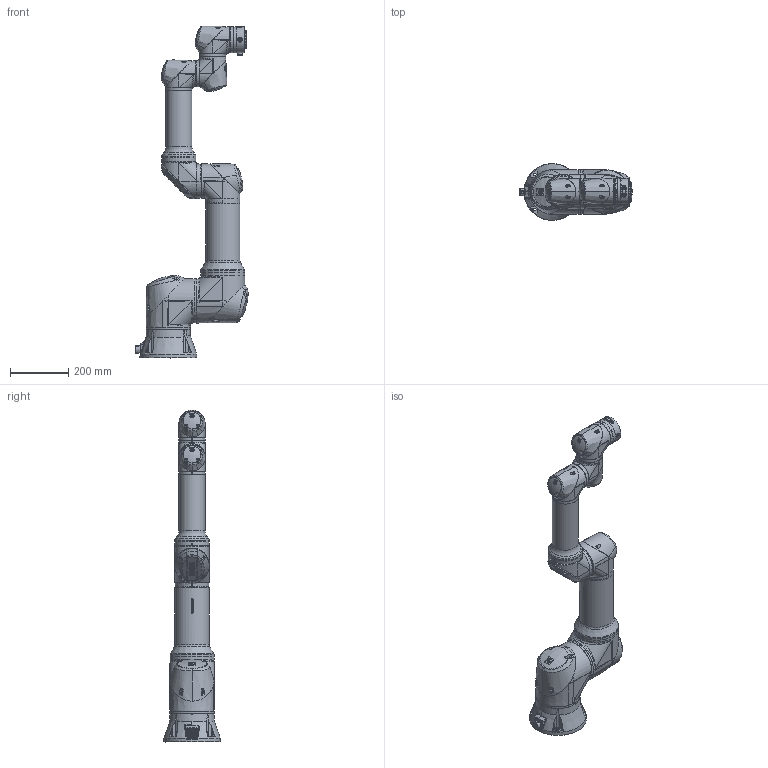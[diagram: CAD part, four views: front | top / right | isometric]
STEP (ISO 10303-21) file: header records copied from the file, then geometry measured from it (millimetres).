
FILE_DESCRIPTION(/* description */ (''),/* implementation_level */ '2;1');
FILE_NAME(/* name */ 'RB16-900E.stp',/* time_stamp */ '2024-01-17T17:16:28+09:00',/* author */ ('TK AHN'),/* organization */ (''),/* preprocessor_version */ 'ST-DEVELOPER v19.2',/* originating_system */ 'Autodesk Inventor 2023',/* authorisation */ '');
FILE_SCHEMA (('AUTOMOTIVE_DESIGN { 1 0 10303 214 3 1 1 }'));
Length unit declared in the file: millimetre
Products named in the file (8): RB16-900E; RB16-900E_BASE; RB16-900E_LINK1; RB16-900E_LINK2; RB16-900E_LINK3; RB16-900E_LINK4; RB16-900E_LINK5; RB16-900E_LINK6
Assembly tree (7 placements, depth 2):
  RB16-900E
    RB16-900E_BASE
    RB16-900E_LINK1
    RB16-900E_LINK2
    RB16-900E_LINK3
    RB16-900E_LINK4
    RB16-900E_LINK5
    RB16-900E_LINK6
Bounding box: 387.16 x 196 x 1144.51 mm (x, y, z)
Volume: 19999330.5 mm3; surface area: 1319166.7 mm2
Topology: 39 solids, 40 shells, 3504 faces, 9015 edges, 5792 vertices
Faces by surface type: plane 1394, bspline 835, cylinder 781, cone 294, torus 163, sphere 37
Full cylindrical faces by diameter (mm): 0.9 x16, 1.5 x10, 1.7 x20, 2.459 x1, 2.5 x16, 2.6 x10, 3 x4, 3.1 x10, 3.2 x9, 3.4 x4, 4.5 x4, 4.917 x4, 5.1 x18, 5.6 x4, 6 x9, 6.5 x9, 6.647 x4, 6.7 x1, 6.9 x1, 7.794 x1, 8 x1, 8.5 x3, 8.9 x2, 9 x2, 9.2 x1, 15.3 x1, 16 x1, 17.5 x1, 23 x1, 31.5 x1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
Entity records: 301335 total; most frequent: CARTESIAN_POINT 218502, ORIENTED_EDGE 17900, DIRECTION 14152, EDGE_CURVE 8950, VERTEX_POINT 5792, AXIS2_PLACEMENT_3D 5312, EDGE_LOOP 3824, LINE 3528
